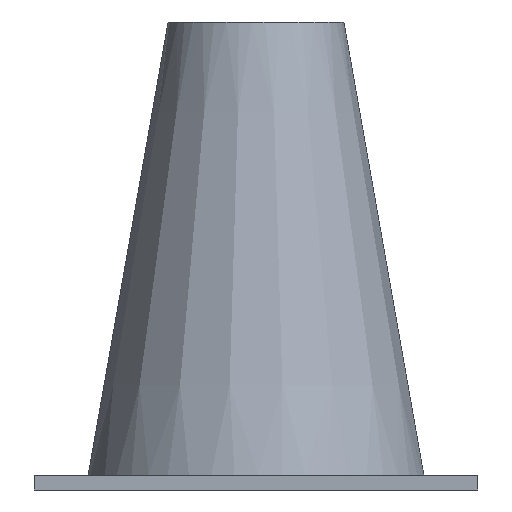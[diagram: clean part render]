
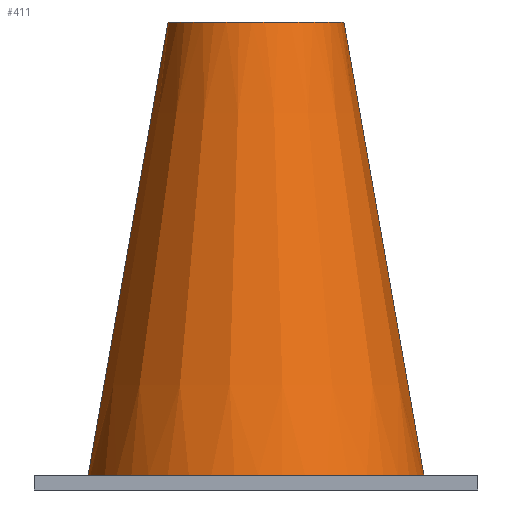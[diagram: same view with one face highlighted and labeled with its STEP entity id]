
A CAD part, front view. The second image highlights one B-rep face of the part: STEP entity #411.
In plain terms, the highlighted conical face has half-angle 10 degrees and reference radius 18.046 mm.
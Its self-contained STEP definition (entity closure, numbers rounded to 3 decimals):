
#284=CARTESIAN_POINT('Vertex',(27.454,55.5,96.)) ;
#286=CARTESIAN_POINT('Vertex',(63.546,55.5,96.)) ;
#290=CARTESIAN_POINT('Control Point',(27.454,55.5,96.)) ;
#291=CARTESIAN_POINT('Control Point',(27.454,53.829,96.)) ;
#292=CARTESIAN_POINT('Control Point',(27.647,52.158,96.)) ;
#293=CARTESIAN_POINT('Control Point',(28.034,50.517,96.)) ;
#294=CARTESIAN_POINT('Control Point',(29.181,47.353,96.)) ;
#295=CARTESIAN_POINT('Control Point',(31.02,44.535,96.)) ;
#296=CARTESIAN_POINT('Control Point',(32.1,43.239,96.)) ;
#297=CARTESIAN_POINT('Control Point',(34.54,40.92,96.)) ;
#298=CARTESIAN_POINT('Control Point',(37.445,39.221,96.)) ;
#299=CARTESIAN_POINT('Control Point',(38.99,38.544,96.)) ;
#300=CARTESIAN_POINT('Control Point',(42.209,37.56,96.)) ;
#301=CARTESIAN_POINT('Control Point',(45.567,37.337,96.)) ;
#302=CARTESIAN_POINT('Control Point',(47.252,37.422,96.)) ;
#303=CARTESIAN_POINT('Control Point',(50.572,37.979,96.)) ;
#304=CARTESIAN_POINT('Control Point',(53.676,39.281,96.)) ;
#305=CARTESIAN_POINT('Control Point',(55.145,40.109,96.)) ;
#306=CARTESIAN_POINT('Control Point',(57.866,42.092,96.)) ;
#307=CARTESIAN_POINT('Control Point',(60.061,44.643,96.)) ;
#308=CARTESIAN_POINT('Control Point',(61.006,46.041,96.)) ;
#309=CARTESIAN_POINT('Control Point',(62.386,48.705,96.)) ;
#310=CARTESIAN_POINT('Control Point',(63.19,51.588,96.)) ;
#311=CARTESIAN_POINT('Control Point',(63.428,52.882,96.)) ;
#312=CARTESIAN_POINT('Control Point',(63.546,54.191,96.)) ;
#313=CARTESIAN_POINT('Control Point',(63.546,55.5,96.)) ;
#351=CARTESIAN_POINT('Vertex',(79.945,55.5,3.)) ;
#353=CARTESIAN_POINT('Vertex',(11.055,55.5,3.)) ;
#357=CARTESIAN_POINT('Control Point',(79.945,55.5,3.)) ;
#358=CARTESIAN_POINT('Control Point',(79.945,49.734,3.)) ;
#359=CARTESIAN_POINT('Control Point',(78.738,43.968,3.)) ;
#360=CARTESIAN_POINT('Control Point',(76.323,38.538,3.)) ;
#361=CARTESIAN_POINT('Control Point',(69.374,29.023,3.)) ;
#362=CARTESIAN_POINT('Control Point',(59.193,23.092,3.)) ;
#363=CARTESIAN_POINT('Control Point',(53.543,21.25,3.)) ;
#364=CARTESIAN_POINT('Control Point',(41.822,20.039,3.)) ;
#365=CARTESIAN_POINT('Control Point',(30.598,23.63,3.)) ;
#366=CARTESIAN_POINT('Control Point',(25.446,26.593,3.)) ;
#367=CARTESIAN_POINT('Control Point',(17.779,33.512,3.)) ;
#368=CARTESIAN_POINT('Control Point',(13.108,42.618,3.)) ;
#369=CARTESIAN_POINT('Control Point',(11.739,46.816,3.)) ;
#370=CARTESIAN_POINT('Control Point',(11.055,51.158,3.)) ;
#371=CARTESIAN_POINT('Control Point',(11.055,55.5,3.)) ;
#383=CARTESIAN_POINT('Line Origine',(19.255,55.5,49.5)) ;
#388=CARTESIAN_POINT('Line Origine',(71.745,55.5,49.5)) ;
#400=CARTESIAN_POINT('Axis2P3D Location',(45.5,55.5,96.)) ;
#384=DIRECTION('Vector Direction',(-0.174,0.,-0.985)) ;
#389=DIRECTION('Vector Direction',(0.174,0.,-0.985)) ;
#401=DIRECTION('Axis2P3D Direction',(-0.,-0.,-1.)) ;
#402=DIRECTION('Axis2P3D XDirection',(0.,1.,0.)) ;
#403=AXIS2_PLACEMENT_3D('Cone Axis2P3D',#400,#401,#402) ;
#406=ORIENTED_EDGE('',*,*,#314,.F.) ;
#407=ORIENTED_EDGE('',*,*,#387,.F.) ;
#408=ORIENTED_EDGE('',*,*,#372,.F.) ;
#409=ORIENTED_EDGE('',*,*,#392,.T.) ;
#385=VECTOR('Line Direction',#384,1.) ;
#390=VECTOR('Line Direction',#389,1.) ;
#411=ADVANCED_FACE('PartBody',(#410),#404,.T.) ;
#289=B_SPLINE_CURVE_WITH_KNOTS('',5,(#290,#291,#292,#293,#294,#295,#296,#297,#298,#299,#300,#301,#302,#303,#304,#305,#306,#307,#308,#309,#310,#311,#312,#313),.UNSPECIFIED.,.F.,.U.,(6,3,3,3,3,3,3,6),(0.,10.864,21.733,32.603,43.472,54.341,65.211,73.721),.UNSPECIFIED.) ;
#356=B_SPLINE_CURVE_WITH_KNOTS('',5,(#357,#358,#359,#360,#361,#362,#363,#364,#365,#366,#367,#368,#369,#370,#371),.UNSPECIFIED.,.F.,.U.,(6,3,3,3,6),(0.,31.445,62.895,94.345,118.024),.UNSPECIFIED.) ;
#404=CONICAL_SURFACE('Cone',#403,18.046,0.175) ;
#314=EDGE_CURVE('',#285,#287,#289,.T.) ;
#372=EDGE_CURVE('',#352,#354,#356,.T.) ;
#387=EDGE_CURVE('',#354,#285,#386,.F.) ;
#392=EDGE_CURVE('',#352,#287,#391,.F.) ;
#405=EDGE_LOOP('',(#406,#407,#408,#409)) ;
#410=FACE_OUTER_BOUND('',#405,.T.) ;
#386=LINE('Line',#383,#385) ;
#391=LINE('Line',#388,#390) ;
#285=VERTEX_POINT('',#284) ;
#287=VERTEX_POINT('',#286) ;
#352=VERTEX_POINT('',#351) ;
#354=VERTEX_POINT('',#353) ;
